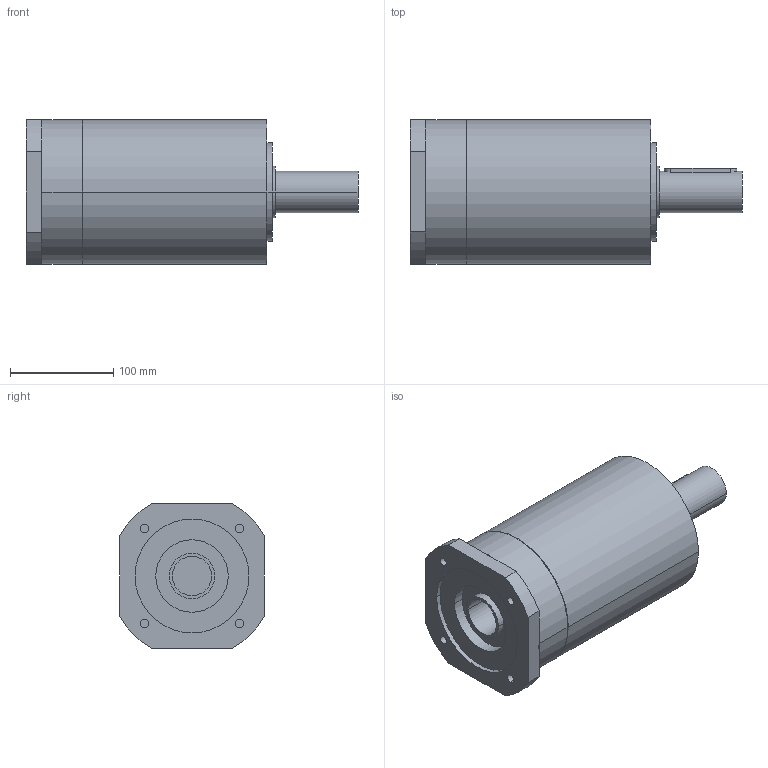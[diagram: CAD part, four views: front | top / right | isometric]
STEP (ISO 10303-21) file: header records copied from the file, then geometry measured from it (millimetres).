
FILE_DESCRIPTION(('CoCreate Modeling STEP Export'),'2;1');
FILE_NAME('GPR150_ig-9-12-16-20-28-35_40_B14_38_P04.stp','2014-08-19T17:04:30',(''),(''),'CoCreate Modeling STEP processor for AP214 (Solid Model)','CoCreate Modeling 16.00C 25-Feb-2009 (C) Parametric Technology GmbH','');
FILE_SCHEMA(('AUTOMOTIVE_DESIGN { 1 0 10303 214 1 1 1 1 }'));
Length unit declared in the file: millimetre
Products named in the file (2): GPR150_ig-9-12-16-20-28-35_40_B14_38_P04
Assembly tree (1 placements, depth 2):
  GPR150_ig-9-12-16-20-28-35_40_B14_38_P04
    GPR150_ig-9-12-16-20-28-35_40_B14_38_P04
Bounding box: 321 x 140 x 140 mm (x, y, z)
Volume: 3591912.8 mm3; surface area: 174047.5 mm2
Topology: 1 solids, 1 shells, 86 faces, 232 edges, 160 vertices
Faces by surface type: cylinder 50, plane 30, cone 6
Entity records: 2336 total; most frequent: ORIENTED_EDGE 460, CARTESIAN_POINT 441, DIRECTION 312, EDGE_CURVE 230, VERTEX_POINT 160, AXIS2_PLACEMENT_3D 119, EDGE_LOOP 108, FACE_OUTER_BOUND 86
